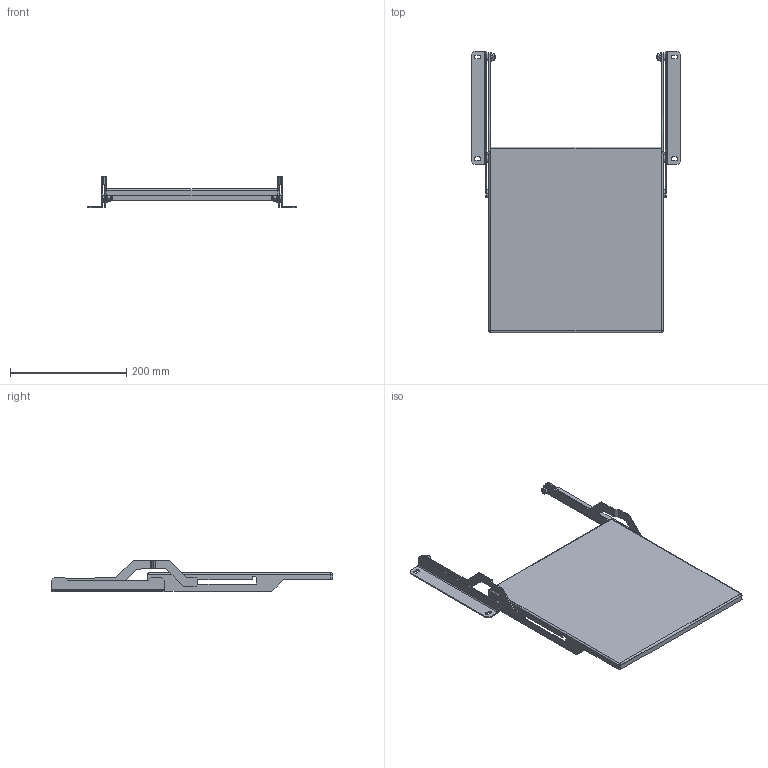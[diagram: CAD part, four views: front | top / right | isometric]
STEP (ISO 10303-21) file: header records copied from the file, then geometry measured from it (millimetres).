
FILE_DESCRIPTION (( 'STEP AP214' ), '1' );
FILE_NAME ('SH 50 D ÑÁ Ïîäñòàâêà (ñëîæåííàÿ).STEP', '2025-04-04T08:03:14', ( '' ), ( '' ), 'SwSTEP 2.0', 'SolidWorks 2022', '' );
FILE_SCHEMA (( 'AUTOMOTIVE_DESIGN' ));
Length unit declared in the file: millimetre
Products named in the file (4): SH 50 D СБ Подставка (сложенная); SH 50 D СБ Подставка v1; Зеркально отразитьSH D Кронштейн подставки v1 (опущенная); SH D Кронштейн подставки v1 (сложенная)
Assembly tree (3 placements, depth 2):
  SH 50 D СБ Подставка (сложенная)
    SH 50 D СБ Подставка v1
    SH D Кронштейн подставки v1 (сложенная)
    Зеркально отразитьSH D Кронштейн подставки v1 (опущенная)
Bounding box: 361.8 x 485 x 54.74 mm (x, y, z)
Volume: 233819.6 mm3; surface area: 301376.6 mm2
Topology: 23 solids, 23 shells, 490 faces, 1109 edges, 655 vertices
Faces by surface type: plane 202, cylinder 128, cone 84, torus 36, bspline 36, sphere 4
Entity records: 15039 total; most frequent: CARTESIAN_POINT 3972, ORIENTED_EDGE 2210, DIRECTION 2197, EDGE_CURVE 1105, AXIS2_PLACEMENT_3D 828, VERTEX_POINT 655, LINE 541, VECTOR 541
